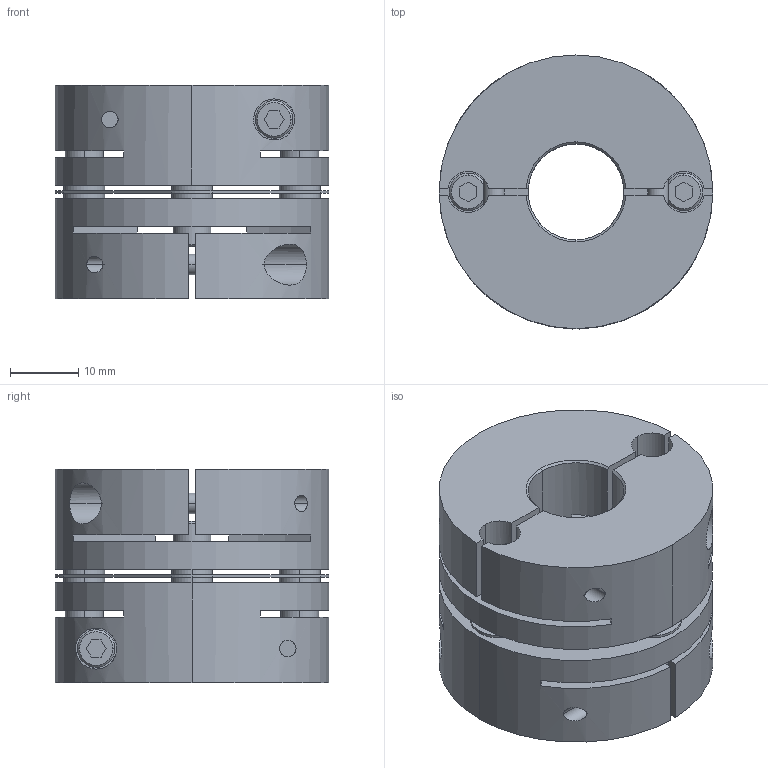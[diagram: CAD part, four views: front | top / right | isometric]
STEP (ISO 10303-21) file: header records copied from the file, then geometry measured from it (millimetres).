
FILE_DESCRIPTION((''),'2;1');
FILE_NAME('LAS-40C-14×19.stp','2011-08-11T09:01:58',(''),(''),'AutoCAD STEP 2000i','AutoCAD 2000i',', , ');
FILE_SCHEMA(('CONFIG_CONTROL_DESIGN'));
Length unit declared in the file: millimetre
Products named in the file (6): LAS-40C-10×15; 忣兜1; LA-4002-D15; LA-4002-D10-1; LA-4002-D10; LAS40-ITA
Assembly tree (5 placements, depth 2):
  LAS-40C-10×15
    忣兜1
    LA-4002-D15
    LA-4002-D10-1
    LA-4002-D10
    LAS40-ITA
Bounding box: 40 x 40 x 31.2 mm (x, y, z)
Volume: 27854.8 mm3; surface area: 14977.1 mm2
Topology: 1 solids, 1 shells, 236 faces, 624 edges, 408 vertices
Faces by surface type: plane 112, cylinder 96, cone 28
Entity records: 8177 total; most frequent: CARTESIAN_POINT 1970, DIRECTION 1304, ORIENTED_EDGE 1248, EDGE_CURVE 624, AXIS2_PLACEMENT_3D 478, VERTEX_POINT 408, VECTOR 348, LINE 348
